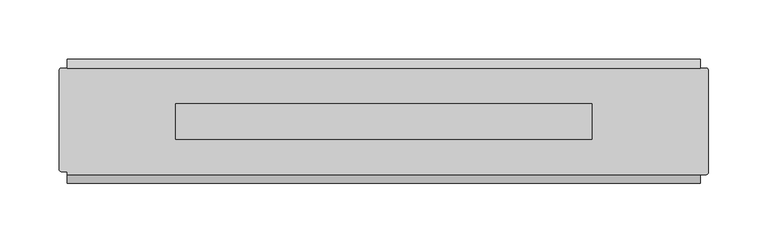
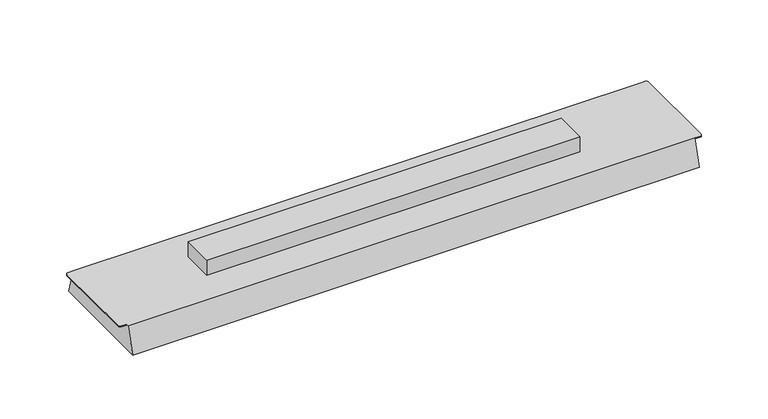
"""IFC4 building model written with IfcOpenShell, lengths in millimetres: light fixture geometry, GENILED_Светильник светодиодный_Retail Advanced : Retail Advanced 535x105x25 20Вт Линза Ш."""

from ifc_helpers import new_model, si_unit, frame, origin, place, context, project, spatial, circle_curve, source, transform, mapped, element, save
from ifc_brep_helpers import plane_surface, cylinder_surface, advanced_brep


def light_fixture_b94f0c3b(model_context):
    return source(origin(), model_context, "Body", "AdvancedBrep", [
        advanced_brep(
        [(267.5, 45.0, 25.0), (-267.5, 45.0, 25.0), (-272.5, 45.0, 25.0), (-274.5, 43.0, 25.0), (-274.5, -40.5, 25.0), (-272.5, -42.5, 25.0), (-267.5, -42.5, 25.0), (-267.5, -45.0, 25.0), (267.5, -45.0, 25.0), (272.5, -45.0, 25.0), (274.5, -43.0, 25.0), (274.5, 43.0, 25.0), (272.5, 45.0, 25.0), (-176.0, 15.0, 25.0), (176.0, 15.0, 25.0), (176.0, -15.0, 25.0), (-176.0, -15.0, 25.0), (267.5, 52.5, 0.0), (267.5, -52.5, 0.0), (-267.5, -52.5, 0.0), (-267.5, 52.5, 0.0), (-267.5, -42.5, 24.0), (-267.5, 45.0, 24.0), (267.5, 45.0, 24.0), (267.5, -45.0, 24.0), (176.0, 15.0, 40.0), (-176.0, 15.0, 40.0), (-176.0, -15.0, 40.0), (176.0, -15.0, 40.0), (272.5, 45.0, 24.0), (274.5, 43.0, 24.0), (274.5, -43.0, 24.0), (272.5, -45.0, 24.0), (-272.5, -42.5, 24.0), (-274.5, -40.5, 24.0), (-274.5, 43.0, 24.0), (-272.5, 45.0, 24.0)],
        [
            (0, 1),
            (1, 2),
            (2, 3, circle_curve(frame((-272.5, 43.0, 25.0), z_axis=(0.0, 0.0, 1.0), x_axis=(1.0, 0.0, 0.0)), 2.0)),
            (3, 4),
            (4, 5, circle_curve(frame((-272.5, -40.5, 25.0), z_axis=(0.0, 0.0, 1.0), x_axis=(1.0, 0.0, 0.0)), 2.0)),
            (5, 6),
            (6, 7),
            (7, 8),
            (8, 9),
            (9, 10, circle_curve(frame((272.5, -43.0, 25.0), z_axis=(0.0, 0.0, 1.0), x_axis=(1.0, 0.0, 0.0)), 2.0)),
            (10, 11),
            (11, 12, circle_curve(frame((272.5, 43.0, 25.0), z_axis=(0.0, 0.0, 1.0), x_axis=(1.0, 0.0, 0.0)), 2.0)),
            (12, 0),
            (13, 14),
            (14, 15),
            (15, 16),
            (16, 13),
            (17, 18),
            (18, 19),
            (19, 20),
            (20, 17),
            (0, 17),
            (20, 1),
            (19, 7),
            (6, 21),
            (21, 22),
            (22, 1),
            (18, 8),
            (0, 23),
            (23, 24),
            (24, 8),
            (25, 26),
            (26, 27),
            (27, 28),
            (28, 25),
            (25, 14),
            (13, 26),
            (16, 27),
            (15, 28),
            (29, 30, circle_curve(frame((272.5, 43.0, 24.0), z_axis=(0.0, 0.0, -1.0), x_axis=(1.0, 0.0, 0.0)), 2.0)),
            (30, 31),
            (31, 32, circle_curve(frame((272.5, -43.0, 24.0), z_axis=(0.0, 0.0, -1.0), x_axis=(1.0, 0.0, 0.0)), 2.0)),
            (32, 24),
            (23, 29),
            (12, 29),
            (32, 9),
            (31, 10),
            (30, 11),
            (21, 33),
            (33, 34, circle_curve(frame((-272.5, -40.5, 24.0), z_axis=(0.0, 0.0, -1.0), x_axis=(1.0, 0.0, 0.0)), 2.0)),
            (34, 35),
            (35, 36, circle_curve(frame((-272.5, 43.0, 24.0), z_axis=(0.0, 0.0, -1.0), x_axis=(1.0, 0.0, 0.0)), 2.0)),
            (36, 22),
            (36, 2),
            (35, 3),
            (34, 4),
            (33, 5),
        ],
        [
            plane_surface(frame((0.0, 0.0, 25.0), z_axis=(0.0, 0.0, 1.0), x_axis=(-1.0, 0.0, 0.0))),
            plane_surface(frame((0.0, 0.0, 0.0), z_axis=(0.0, 0.0, -1.0), x_axis=(-1.0, 0.0, 0.0))),
            plane_surface(frame((0.0, 52.5, 0.0), z_axis=(0.0, 0.9578262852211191, 0.28734788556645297), x_axis=(-1.0, 0.0, 0.0))),
            plane_surface(frame((-267.5, 0.0, 0.0), z_axis=(-1.0, 0.0, 0.0), x_axis=(0.0, -1.0, 0.0))),
            plane_surface(frame((0.0, -52.5, 0.0), z_axis=(0.0, -0.957826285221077, 0.28734788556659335), x_axis=(1.0, 0.0, 0.0))),
            plane_surface(frame((267.5, 0.0, 0.0), z_axis=(1.0, 0.0, 0.0), x_axis=(0.0, 1.0, 0.0))),
            plane_surface(frame((-176.0, 15.0, 40.0), z_axis=(0.0, 0.0, 1.0), x_axis=(-1.0, 0.0, 0.0))),
            plane_surface(frame((176.0, 15.0, 40.0), z_axis=(0.0, 1.0, 0.0), x_axis=(0.0, 0.0, -1.0))),
            plane_surface(frame((-176.0, 15.0, 40.0), z_axis=(-1.0, 0.0, 0.0), x_axis=(0.0, 0.0, -1.0))),
            plane_surface(frame((-176.0, -15.0, 40.0), z_axis=(0.0, -1.0, 0.0), x_axis=(0.0, 0.0, -1.0))),
            plane_surface(frame((176.0, -15.0, 40.0), z_axis=(1.0, 0.0, 0.0), x_axis=(0.0, 0.0, -1.0))),
            plane_surface(frame((267.5, 45.0, 24.0), z_axis=(0.0, 0.0, -1.0), x_axis=(1.0, 0.0, 0.0))),
            plane_surface(frame((272.5, 45.0, 25.0), z_axis=(0.0, 1.0, 0.0), x_axis=(0.0, 0.0, -1.0))),
            plane_surface(frame((267.5, -45.0, 25.0), z_axis=(0.0, -1.0, 0.0), x_axis=(0.0, 0.0, -1.0))),
            cylinder_surface(frame((272.5, -43.0, 24.0), z_axis=(0.0, 0.0, 1.0), x_axis=(1.0, 0.0, 0.0)), 2.0),
            plane_surface(frame((274.5, -43.0, 25.0), z_axis=(1.0, 0.0, 0.0), x_axis=(0.0, 0.0, -1.0))),
            cylinder_surface(frame((272.5, 43.0, 24.0), z_axis=(0.0, 0.0, 1.0), x_axis=(1.0, 0.0, 0.0)), 2.0),
            plane_surface(frame((-274.5, 45.0, 24.0), z_axis=(0.0, 0.0, -1.0), x_axis=(1.0, 0.0, 0.0))),
            plane_surface(frame((-267.5, 45.0, 25.0), z_axis=(0.0, 1.0, 0.0), x_axis=(0.0, 0.0, -1.0))),
            cylinder_surface(frame((-272.5, 43.0, 24.0), z_axis=(0.0, 0.0, 1.0), x_axis=(1.0, 0.0, 0.0)), 2.0),
            plane_surface(frame((-274.5, 43.0, 25.0), z_axis=(-1.0, 0.0, 0.0), x_axis=(0.0, 0.0, -1.0))),
            cylinder_surface(frame((-272.5, -40.5, 24.0), z_axis=(0.0, 0.0, 1.0), x_axis=(1.0, 0.0, 0.0)), 2.0),
            plane_surface(frame((-272.5, -42.5, 25.0), z_axis=(0.0, -1.0, 0.0), x_axis=(0.0, 0.0, -1.0))),
        ],
        [
            (0, [[1, 2, 3, 4, 5, 6, 7, 8, 9, 10, 11, 12, 13], [14, 15, 16, 17]]),
            (1, [[18, 19, 20, 21]]),
            (2, [[-1, 22, -21, 23]]),
            (3, [[-20, 24, -7, 25, 26, 27, -23]]),
            (4, [[-8, -24, -19, 28]]),
            (5, [[-18, -22, 29, 30, 31, -28]]),
            (6, [[32, 33, 34, 35]]),
            (7, [[-32, 36, -14, 37]]),
            (8, [[-33, -37, -17, 38]]),
            (9, [[-34, -38, -16, 39]]),
            (10, [[-35, -39, -15, -36]]),
            (11, [[40, 41, 42, 43, -30, 44]]),
            (12, [[-13, 45, -44, -29]]),
            (13, [[-9, -31, -43, 46]]),
            (14, [[-10, -46, -42, 47]]),
            (15, [[-11, -47, -41, 48]]),
            (16, [[-12, -48, -40, -45]]),
            (17, [[49, 50, 51, 52, 53, -26]]),
            (18, [[-2, -27, -53, 54]]),
            (19, [[-3, -54, -52, 55]]),
            (20, [[-4, -55, -51, 56]]),
            (21, [[-5, -56, -50, 57]]),
            (22, [[-6, -57, -49, -25]]),
        ],
    ),
    ])


if __name__ == "__main__":
    model = new_model("IFC4")
    model_context = context("Model", 3, world=origin())
    ifc_project = project(units=[si_unit("LENGTHUNIT", "METRE", prefix="MILLI")], contexts=[model_context])
    site = spatial("IfcSite", under=ifc_project)
    building = spatial("IfcBuilding", under=site)
    placement = place(None, origin())
    light_fixture_shape = light_fixture_b94f0c3b(model_context)
    element("IfcLightFixture", 1, ObjectType="GENILED_Светильник светодиодный_Retail Advanced : Retail Advanced 535x105x25 20Вт Линза Ш", at=placement, inside=building, context=model_context, shape_type="MappedRepresentation", body=[
        mapped(light_fixture_shape, transform((0.0, 0.0, 0.0), x_axis=(1.0, 0.0, 0.0), y_axis=(0.0, 1.0, 0.0), z_axis=(0.0, 0.0, 1.0))),
    ])
    save(model, "model.ifc")
